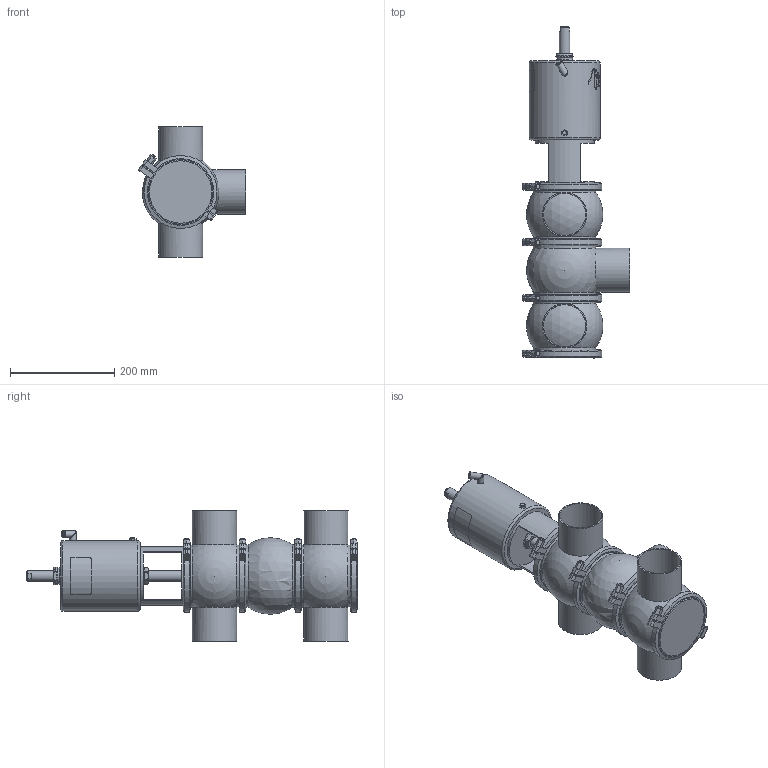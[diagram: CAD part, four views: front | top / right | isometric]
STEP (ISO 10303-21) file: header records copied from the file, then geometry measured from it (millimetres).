
FILE_DESCRIPTION (( 'STEP AP214' ), '1' );
FILE_NAME ('INNOVA L W W DIN 080 T3 AS NC_10.241.16.0028.STEP', '2024-08-07T07:07:54', ( '' ), ( '' ), 'SwSTEP 2.0', 'SolidWorks 2023', '' );
FILE_SCHEMA (( 'AUTOMOTIVE_DESIGN' ));
Length unit declared in the file: millimetre
Products named in the file (7): 10.240.15.0006_DIN 080; 10.240.15.0014_T3 AS P180; INNOVA L W W DIN 080 T3 AS NC_10.241.16.0028; 10.240.15.0007_DIN 080; 10.240.15.0001_DN 080; 10.240.15.0010_DN 080; 10.241.15.0001_DIN 080
Assembly tree (10 placements, depth 2):
  INNOVA L W W DIN 080 T3 AS NC_10.241.16.0028
    10.240.15.0007_DIN 080  x2
    10.240.15.0006_DIN 080
    10.240.15.0010_DN 080
    10.240.15.0014_T3 AS P180
    10.240.15.0001_DN 080  x4
    10.241.15.0001_DIN 080
Bounding box: 206.43 x 637.63 x 250 mm (x, y, z)
Volume: 7517665.7 mm3; surface area: 701663 mm2
Topology: 11 solids, 11 shells, 542 faces, 1448 edges, 943 vertices
Faces by surface type: plane 262, cylinder 140, bspline 80, cone 46, sphere 10, torus 4
Full cylindrical faces by diameter (mm): 6.15 x1, 8 x9, 8.5 x1, 10.5 x1, 12.5 x3, 16 x1, 20 x2, 31 x1, 34.5 x2, 36.5 x1, 81 x5, 85 x5, 113 x1, 120 x7, 132 x8, 136 x1
Entity records: 20856 total; most frequent: CARTESIAN_POINT 11366, ORIENTED_EDGE 1646, DIRECTION 1287, EDGE_CURVE 823, VERTEX_POINT 568, AXIS2_PLACEMENT_3D 499, EDGE_LOOP 427, FACE_OUTER_BOUND 385
